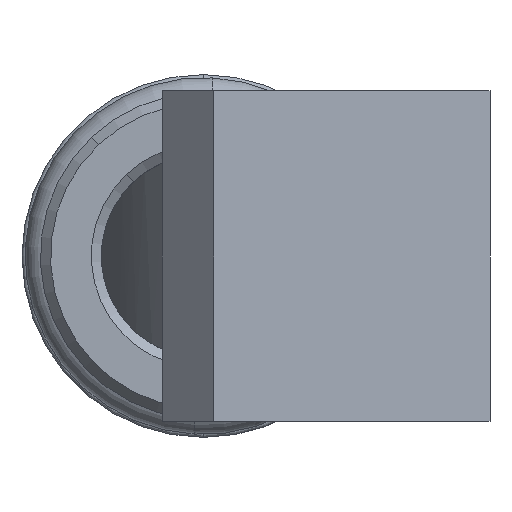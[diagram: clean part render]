
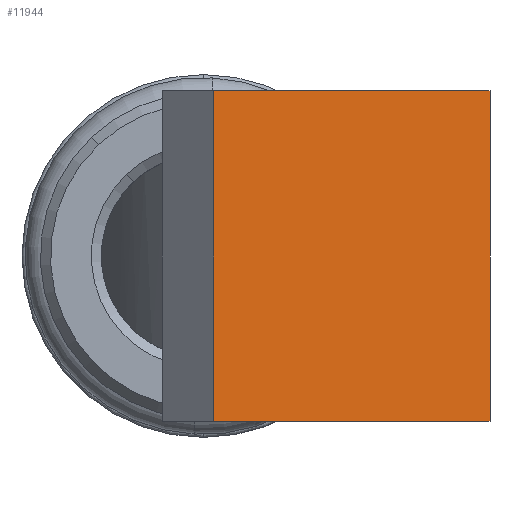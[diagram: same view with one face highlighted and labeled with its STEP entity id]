
A CAD part, left-side view. The second image highlights one B-rep face of the part: STEP entity #11944.
In plain terms, the highlighted planar face has unit normal (-0.997, -0.084, 0).
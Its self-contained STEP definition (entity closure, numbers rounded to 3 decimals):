
#111 = DIRECTION ( 'NONE',  ( 0., 0., 1. ) ) ;
#428 = CARTESIAN_POINT ( 'NONE',  ( -173.357, -14.062, 8.1 ) ) ;
#3268 = LINE ( 'NONE', #5861, #21465 ) ;
#3413 = AXIS2_PLACEMENT_3D ( 'NONE', #20276, #10732, #6584 ) ;
#3446 = CARTESIAN_POINT ( 'NONE',  ( -174.496, -0.496, 8.1 ) ) ;
#3571 = CARTESIAN_POINT ( 'NONE',  ( -158.251, -193.973, 8.1 ) ) ;
#4894 = DIRECTION ( 'NONE',  ( 0., 0., 1. ) ) ;
#5764 = EDGE_LOOP ( 'NONE', ( #6398, #11583, #18774, #18706 ) ) ;
#5861 = CARTESIAN_POINT ( 'NONE',  ( -158.251, -193.973, -8.1 ) ) ;
#6398 = ORIENTED_EDGE ( 'NONE', *, *, #18143, .F. ) ;
#6584 = DIRECTION ( 'NONE',  ( 0.084, -0.996, 0. ) ) ;
#8732 = CARTESIAN_POINT ( 'NONE',  ( -174.496, -0.496, -8.1 ) ) ;
#9229 = LINE ( 'NONE', #3571, #12606 ) ;
#9512 = DIRECTION ( 'NONE',  ( -0.084, 0.996, 0. ) ) ;
#10732 = DIRECTION ( 'NONE',  ( -0.996, -0.084, 0. ) ) ;
#10918 = CARTESIAN_POINT ( 'NONE',  ( -174.496, -0.496, -15. ) ) ;
#11296 = EDGE_CURVE ( 'NONE', #24773, #13631, #22096, .T. ) ;
#11426 = LINE ( 'NONE', #21093, #24634 ) ;
#11583 = ORIENTED_EDGE ( 'NONE', *, *, #17006, .T. ) ;
#11944 = ADVANCED_FACE ( 'NONE', ( #12612 ), #14384, .T. ) ;
#12606 = VECTOR ( 'NONE', #16638, 1000. ) ;
#12612 = FACE_OUTER_BOUND ( 'NONE', #5764, .T. ) ;
#13589 = EDGE_CURVE ( 'NONE', #18453, #13631, #9229, .T. ) ;
#13631 = VERTEX_POINT ( 'NONE', #3446 ) ;
#14249 = VECTOR ( 'NONE', #4894, 1000. ) ;
#14384 = PLANE ( 'NONE',  #3413 ) ;
#16638 = DIRECTION ( 'NONE',  ( -0.084, 0.996, 0. ) ) ;
#17006 = EDGE_CURVE ( 'NONE', #21088, #18453, #11426, .T. ) ;
#18143 = EDGE_CURVE ( 'NONE', #21088, #24773, #3268, .T. ) ;
#18453 = VERTEX_POINT ( 'NONE', #428 ) ;
#18706 = ORIENTED_EDGE ( 'NONE', *, *, #11296, .F. ) ;
#18774 = ORIENTED_EDGE ( 'NONE', *, *, #13589, .T. ) ;
#19647 = CARTESIAN_POINT ( 'NONE',  ( -173.357, -14.062, -8.1 ) ) ;
#20276 = CARTESIAN_POINT ( 'NONE',  ( -158.251, -193.973, -15. ) ) ;
#21088 = VERTEX_POINT ( 'NONE', #19647 ) ;
#21093 = CARTESIAN_POINT ( 'NONE',  ( -173.357, -14.062, -15. ) ) ;
#21465 = VECTOR ( 'NONE', #9512, 1000. ) ;
#22096 = LINE ( 'NONE', #10918, #14249 ) ;
#24634 = VECTOR ( 'NONE', #111, 1000. ) ;
#24773 = VERTEX_POINT ( 'NONE', #8732 ) ;
